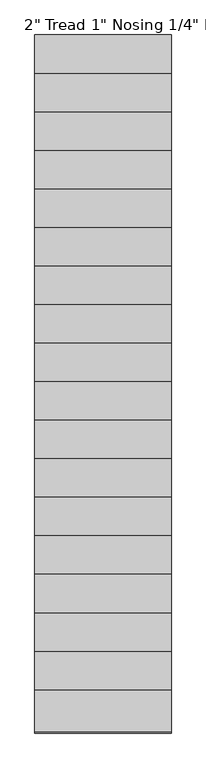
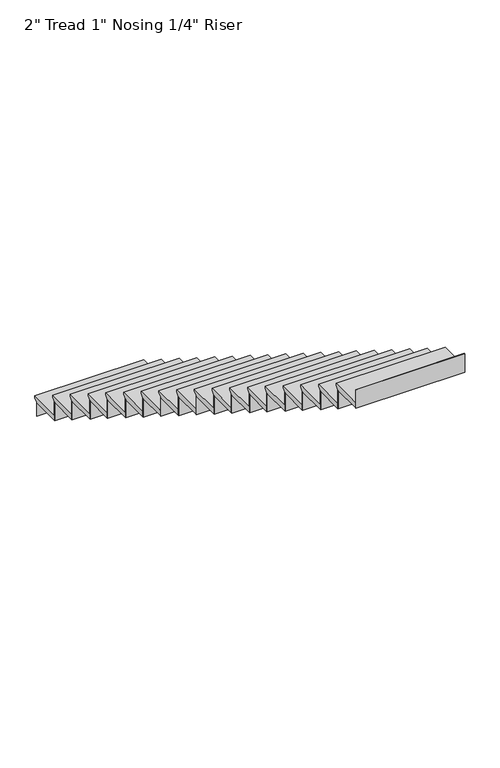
"""IFC4 building model written with IfcOpenShell, lengths in millimetres: stair flight geometry."""

from ifc_helpers import new_model, si_unit, frame, origin, place, context, project, spatial, polyline, outline, extrude, source, transform, mapped, element, save


def stair_flight_49ee623f(model_context):
    return source(origin(), model_context, "Body", "SweptSolid", [
        extrude(outline(polyline([(4359.4563085, -3176.3368421), (4664.2563085, -3176.3368421), (4664.2563085, -3195.3868421), (4638.8563085, -3220.7868421), (4638.8563085, -3227.1368421), (4359.4563085, -3227.1368421), (4359.4563085, -3176.3368421)])), frame((4625.0655789, 0.0, 0.0), z_axis=(1.0, 0.0, 0.0), x_axis=(0.0, 1.0, 0.0)), (0.0, 0.0, 1.0), 990.6),
        extrude(outline(polyline([(4625.0655789, 4632.5063085), (4625.0655789, 4638.8563085), (5615.6655789, 4638.8563085), (5615.6655789, 4632.5063085), (4625.0655789, 4632.5063085)])), frame((0.0, 0.0, -3352.8), z_axis=(0.0, 0.0, 1.0), x_axis=(1.0, 0.0, 0.0)), (0.0, 0.0, 1.0), 125.6631579),
        extrude(outline(polyline([(4625.0655789, 4353.1063085), (4625.0655789, 4359.4563085), (5615.6655789, 4359.4563085), (5615.6655789, 4353.1063085), (4625.0655789, 4353.1063085)])), frame((0.0, 0.0, -3227.1368421), z_axis=(0.0, 0.0, 1.0), x_axis=(1.0, 0.0, 0.0)), (0.0, 0.0, 1.0), 176.4631579),
        extrude(outline(polyline([(4080.0563085, -2999.8736842), (4384.8563085, -2999.8736842), (4384.8563085, -3018.9236842), (4359.4563085, -3044.3236842), (4359.4563085, -3050.6736842), (4080.0563085, -3050.6736842), (4080.0563085, -2999.8736842)])), frame((4625.0655789, 0.0, 0.0), z_axis=(1.0, 0.0, 0.0), x_axis=(0.0, 1.0, 0.0)), (0.0, 0.0, 1.0), 990.6),
        extrude(outline(polyline([(4625.0655789, 4073.7063085), (4625.0655789, 4080.0563085), (5615.6655789, 4080.0563085), (5615.6655789, 4073.7063085), (4625.0655789, 4073.7063085)])), frame((0.0, 0.0, -3050.6736842), z_axis=(0.0, 0.0, 1.0), x_axis=(1.0, 0.0, 0.0)), (0.0, 0.0, 1.0), 176.4631579),
        extrude(outline(polyline([(3800.6563085, -2823.4105263), (4105.4563085, -2823.4105263), (4105.4563085, -2842.4605263), (4080.0563085, -2867.8605263), (4080.0563085, -2874.2105263), (3800.6563085, -2874.2105263), (3800.6563085, -2823.4105263)])), frame((4625.0655789, 0.0, 0.0), z_axis=(1.0, 0.0, 0.0), x_axis=(0.0, 1.0, 0.0)), (0.0, 0.0, 1.0), 990.6),
        extrude(outline(polyline([(4625.0655789, 3794.3063085), (4625.0655789, 3800.6563085), (5615.6655789, 3800.6563085), (5615.6655789, 3794.3063085), (4625.0655789, 3794.3063085)])), frame((0.0, 0.0, -2874.2105263), z_axis=(0.0, 0.0, 1.0), x_axis=(1.0, 0.0, 0.0)), (0.0, 0.0, 1.0), 176.4631579),
        extrude(outline(polyline([(3521.2563085, -2646.9473684), (3826.0563085, -2646.9473684), (3826.0563085, -2665.9973684), (3800.6563085, -2691.3973684), (3800.6563085, -2697.7473684), (3521.2563085, -2697.7473684), (3521.2563085, -2646.9473684)])), frame((4625.0655789, 0.0, 0.0), z_axis=(1.0, 0.0, 0.0), x_axis=(0.0, 1.0, 0.0)), (0.0, 0.0, 1.0), 990.6),
        extrude(outline(polyline([(4625.0655789, 3514.9063085), (4625.0655789, 3521.2563085), (5615.6655789, 3521.2563085), (5615.6655789, 3514.9063085), (4625.0655789, 3514.9063085)])), frame((0.0, 0.0, -2697.7473684), z_axis=(0.0, 0.0, 1.0), x_axis=(1.0, 0.0, 0.0)), (0.0, 0.0, 1.0), 176.4631579),
        extrude(outline(polyline([(3241.8563085, -2470.4842105), (3546.6563085, -2470.4842105), (3546.6563085, -2489.5342105), (3521.2563085, -2514.9342105), (3521.2563085, -2521.2842105), (3241.8563085, -2521.2842105), (3241.8563085, -2470.4842105)])), frame((4625.0655789, 0.0, 0.0), z_axis=(1.0, 0.0, 0.0), x_axis=(0.0, 1.0, 0.0)), (0.0, 0.0, 1.0), 990.6),
        extrude(outline(polyline([(4625.0655789, 3235.5063085), (4625.0655789, 3241.8563085), (5615.6655789, 3241.8563085), (5615.6655789, 3235.5063085), (4625.0655789, 3235.5063085)])), frame((0.0, 0.0, -2521.2842105), z_axis=(0.0, 0.0, 1.0), x_axis=(1.0, 0.0, 0.0)), (0.0, 0.0, 1.0), 176.4631579),
        extrude(outline(polyline([(2962.4563085, -2294.0210526), (3267.2563085, -2294.0210526), (3267.2563085, -2313.0710526), (3241.8563085, -2338.4710526), (3241.8563085, -2344.8210526), (2962.4563085, -2344.8210526), (2962.4563085, -2294.0210526)])), frame((4625.0655789, 0.0, 0.0), z_axis=(1.0, 0.0, 0.0), x_axis=(0.0, 1.0, 0.0)), (0.0, 0.0, 1.0), 990.6),
        extrude(outline(polyline([(4625.0655789, 2956.1063085), (4625.0655789, 2962.4563085), (5615.6655789, 2962.4563085), (5615.6655789, 2956.1063085), (4625.0655789, 2956.1063085)])), frame((0.0, 0.0, -2344.8210526), z_axis=(0.0, 0.0, 1.0), x_axis=(1.0, 0.0, 0.0)), (0.0, 0.0, 1.0), 176.4631579),
        extrude(outline(polyline([(2683.0563085, -2117.5578947), (2987.8563085, -2117.5578947), (2987.8563085, -2136.6078947), (2962.4563085, -2162.0078947), (2962.4563085, -2168.3578947), (2683.0563085, -2168.3578947), (2683.0563085, -2117.5578947)])), frame((4625.0655789, 0.0, 0.0), z_axis=(1.0, 0.0, 0.0), x_axis=(0.0, 1.0, 0.0)), (0.0, 0.0, 1.0), 990.6),
        extrude(outline(polyline([(4625.0655789, 2676.7063085), (4625.0655789, 2683.0563085), (5615.6655789, 2683.0563085), (5615.6655789, 2676.7063085), (4625.0655789, 2676.7063085)])), frame((0.0, 0.0, -2168.3578947), z_axis=(0.0, 0.0, 1.0), x_axis=(1.0, 0.0, 0.0)), (0.0, 0.0, 1.0), 176.4631579),
        extrude(outline(polyline([(2403.6563085, -1941.0947368), (2708.4563085, -1941.0947368), (2708.4563085, -1960.1447368), (2683.0563085, -1985.5447368), (2683.0563085, -1991.8947368), (2403.6563085, -1991.8947368), (2403.6563085, -1941.0947368)])), frame((4625.0655789, 0.0, 0.0), z_axis=(1.0, 0.0, 0.0), x_axis=(0.0, 1.0, 0.0)), (0.0, 0.0, 1.0), 990.6),
        extrude(outline(polyline([(4625.0655789, 2397.3063085), (4625.0655789, 2403.6563085), (5615.6655789, 2403.6563085), (5615.6655789, 2397.3063085), (4625.0655789, 2397.3063085)])), frame((0.0, 0.0, -1991.8947368), z_axis=(0.0, 0.0, 1.0), x_axis=(1.0, 0.0, 0.0)), (0.0, 0.0, 1.0), 176.4631579),
        extrude(outline(polyline([(2124.2563085, -1764.6315789), (2429.0563085, -1764.6315789), (2429.0563085, -1783.6815789), (2403.6563085, -1809.0815789), (2403.6563085, -1815.4315789), (2124.2563085, -1815.4315789), (2124.2563085, -1764.6315789)])), frame((4625.0655789, 0.0, 0.0), z_axis=(1.0, 0.0, 0.0), x_axis=(0.0, 1.0, 0.0)), (0.0, 0.0, 1.0), 990.6),
        extrude(outline(polyline([(4625.0655789, 2117.9063085), (4625.0655789, 2124.2563085), (5615.6655789, 2124.2563085), (5615.6655789, 2117.9063085), (4625.0655789, 2117.9063085)])), frame((0.0, 0.0, -1815.4315789), z_axis=(0.0, 0.0, 1.0), x_axis=(1.0, 0.0, 0.0)), (0.0, 0.0, 1.0), 176.4631579),
        extrude(outline(polyline([(1844.8563085, -1588.1684211), (2149.6563085, -1588.1684211), (2149.6563085, -1607.2184211), (2124.2563085, -1632.6184211), (2124.2563085, -1638.9684211), (1844.8563085, -1638.9684211), (1844.8563085, -1588.1684211)])), frame((4625.0655789, 0.0, 0.0), z_axis=(1.0, 0.0, 0.0), x_axis=(0.0, 1.0, 0.0)), (0.0, 0.0, 1.0), 990.6),
        extrude(outline(polyline([(4625.0655789, 1838.5063085), (4625.0655789, 1844.8563085), (5615.6655789, 1844.8563085), (5615.6655789, 1838.5063085), (4625.0655789, 1838.5063085)])), frame((0.0, 0.0, -1638.9684211), z_axis=(0.0, 0.0, 1.0), x_axis=(1.0, 0.0, 0.0)), (0.0, 0.0, 1.0), 176.4631579),
        extrude(outline(polyline([(1565.4563085, -1411.7052632), (1870.2563085, -1411.7052632), (1870.2563085, -1430.7552632), (1844.8563085, -1456.1552632), (1844.8563085, -1462.5052632), (1565.4563085, -1462.5052632), (1565.4563085, -1411.7052632)])), frame((4625.0655789, 0.0, 0.0), z_axis=(1.0, 0.0, 0.0), x_axis=(0.0, 1.0, 0.0)), (0.0, 0.0, 1.0), 990.6),
        extrude(outline(polyline([(4625.0655789, 1559.1063085), (4625.0655789, 1565.4563085), (5615.6655789, 1565.4563085), (5615.6655789, 1559.1063085), (4625.0655789, 1559.1063085)])), frame((0.0, 0.0, -1462.5052632), z_axis=(0.0, 0.0, 1.0), x_axis=(1.0, 0.0, 0.0)), (0.0, 0.0, 1.0), 176.4631579),
        extrude(outline(polyline([(1286.0563085, -1235.2421053), (1590.8563085, -1235.2421053), (1590.8563085, -1254.2921053), (1565.4563085, -1279.6921053), (1565.4563085, -1286.0421053), (1286.0563085, -1286.0421053), (1286.0563085, -1235.2421053)])), frame((4625.0655789, 0.0, 0.0), z_axis=(1.0, 0.0, 0.0), x_axis=(0.0, 1.0, 0.0)), (0.0, 0.0, 1.0), 990.6),
        extrude(outline(polyline([(4625.0655789, 1279.7063085), (4625.0655789, 1286.0563085), (5615.6655789, 1286.0563085), (5615.6655789, 1279.7063085), (4625.0655789, 1279.7063085)])), frame((0.0, 0.0, -1286.0421053), z_axis=(0.0, 0.0, 1.0), x_axis=(1.0, 0.0, 0.0)), (0.0, 0.0, 1.0), 176.4631579),
        extrude(outline(polyline([(1006.6563085, -1058.7789474), (1311.4563085, -1058.7789474), (1311.4563085, -1077.8289474), (1286.0563085, -1103.2289474), (1286.0563085, -1109.5789474), (1006.6563085, -1109.5789474), (1006.6563085, -1058.7789474)])), frame((4625.0655789, 0.0, 0.0), z_axis=(1.0, 0.0, 0.0), x_axis=(0.0, 1.0, 0.0)), (0.0, 0.0, 1.0), 990.6),
        extrude(outline(polyline([(4625.0655789, 1000.3063085), (4625.0655789, 1006.6563085), (5615.6655789, 1006.6563085), (5615.6655789, 1000.3063085), (4625.0655789, 1000.3063085)])), frame((0.0, 0.0, -1109.5789474), z_axis=(0.0, 0.0, 1.0), x_axis=(1.0, 0.0, 0.0)), (0.0, 0.0, 1.0), 176.4631579),
        extrude(outline(polyline([(727.2563085, -882.3157895), (1032.0563085, -882.3157895), (1032.0563085, -901.3657895), (1006.6563085, -926.7657895), (1006.6563085, -933.1157895), (727.2563085, -933.1157895), (727.2563085, -882.3157895)])), frame((4625.0655789, 0.0, 0.0), z_axis=(1.0, 0.0, 0.0), x_axis=(0.0, 1.0, 0.0)), (0.0, 0.0, 1.0), 990.6),
        extrude(outline(polyline([(4625.0655789, 720.9063085), (4625.0655789, 727.2563085), (5615.6655789, 727.2563085), (5615.6655789, 720.9063085), (4625.0655789, 720.9063085)])), frame((0.0, 0.0, -933.1157895), z_axis=(0.0, 0.0, 1.0), x_axis=(1.0, 0.0, 0.0)), (0.0, 0.0, 1.0), 176.4631579),
        extrude(outline(polyline([(447.8563085, -705.8526316), (752.6563085, -705.8526316), (752.6563085, -724.9026316), (727.2563085, -750.3026316), (727.2563085, -756.6526316), (447.8563085, -756.6526316), (447.8563085, -705.8526316)])), frame((4625.0655789, 0.0, 0.0), z_axis=(1.0, 0.0, 0.0), x_axis=(0.0, 1.0, 0.0)), (0.0, 0.0, 1.0), 990.6),
        extrude(outline(polyline([(4625.0655789, 441.5063085), (4625.0655789, 447.8563085), (5615.6655789, 447.8563085), (5615.6655789, 441.5063085), (4625.0655789, 441.5063085)])), frame((0.0, 0.0, -756.6526316), z_axis=(0.0, 0.0, 1.0), x_axis=(1.0, 0.0, 0.0)), (0.0, 0.0, 1.0), 176.4631579),
        extrude(outline(polyline([(168.4563085, -529.3894737), (473.2563085, -529.3894737), (473.2563085, -548.4394737), (447.8563085, -573.8394737), (447.8563085, -580.1894737), (168.4563085, -580.1894737), (168.4563085, -529.3894737)])), frame((4625.0655789, 0.0, 0.0), z_axis=(1.0, 0.0, 0.0), x_axis=(0.0, 1.0, 0.0)), (0.0, 0.0, 1.0), 990.6),
        extrude(outline(polyline([(4625.0655789, 162.1063085), (4625.0655789, 168.4563085), (5615.6655789, 168.4563085), (5615.6655789, 162.1063085), (4625.0655789, 162.1063085)])), frame((0.0, 0.0, -580.1894737), z_axis=(0.0, 0.0, 1.0), x_axis=(1.0, 0.0, 0.0)), (0.0, 0.0, 1.0), 176.4631579),
        extrude(outline(polyline([(-110.9436915, -352.9263158), (193.8563085, -352.9263158), (193.8563085, -371.9763158), (168.4563085, -397.3763158), (168.4563085, -403.7263158), (-110.9436915, -403.7263158), (-110.9436915, -352.9263158)])), frame((4625.0655789, 0.0, 0.0), z_axis=(1.0, 0.0, 0.0), x_axis=(0.0, 1.0, 0.0)), (0.0, 0.0, 1.0), 990.6),
        extrude(outline(polyline([(4625.0655789, -117.2936915), (4625.0655789, -110.9436915), (5615.6655789, -110.9436915), (5615.6655789, -117.2936915), (4625.0655789, -117.2936915)])), frame((0.0, 0.0, -403.7263158), z_axis=(0.0, 0.0, 1.0), x_axis=(1.0, 0.0, 0.0)), (0.0, 0.0, 1.0), 176.4631579),
        extrude(outline(polyline([(4625.0655789, -396.6936915), (4625.0655789, -390.3436915), (5615.6655789, -390.3436915), (5615.6655789, -396.6936915), (4625.0655789, -396.6936915)])), frame((0.0, 0.0, -227.2631579), z_axis=(0.0, 0.0, 1.0), x_axis=(1.0, 0.0, 0.0)), (0.0, 0.0, 1.0), 176.4631579),
        extrude(outline(polyline([(-390.3436915, -176.4631579), (-85.5436915, -176.4631579), (-85.5436915, -195.5131579), (-110.9436915, -220.9131579), (-110.9436915, -227.2631579), (-390.3436915, -227.2631579), (-390.3436915, -176.4631579)])), frame((4625.0655789, 0.0, 0.0), z_axis=(1.0, 0.0, 0.0), x_axis=(0.0, 1.0, 0.0)), (0.0, 0.0, 1.0), 990.6),
    ])


if __name__ == "__main__":
    model = new_model("IFC4")
    model_context = context("Model", 3, world=origin())
    ifc_project = project(units=[si_unit("LENGTHUNIT", "METRE", prefix="MILLI")], contexts=[model_context])
    site = spatial("IfcSite", under=ifc_project)
    building = spatial("IfcBuilding", under=site)
    placement = place(None, origin())
    stair_flight_shape = stair_flight_49ee623f(model_context)
    element("IfcStairFlight", 1, ObjectType="2\" Tread 1\" Nosing 1/4\" Riser", at=placement, inside=building, context=model_context, shape_type="MappedRepresentation", body=[
        mapped(stair_flight_shape, transform((0.0, 0.0, 0.0), x_axis=(1.0, 0.0, 0.0), y_axis=(0.0, 1.0, 0.0), z_axis=(0.0, 0.0, 1.0))),
    ])
    save(model, "model.ifc")
